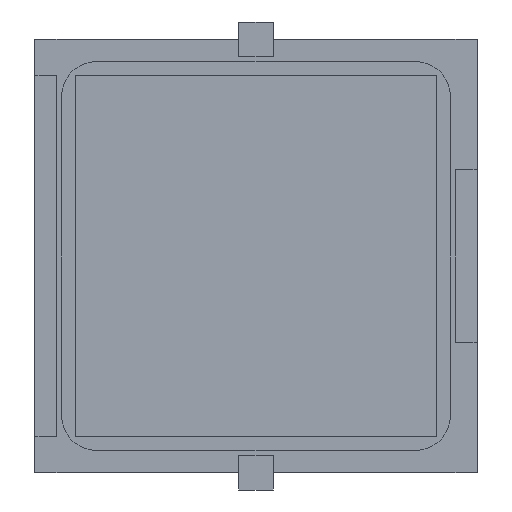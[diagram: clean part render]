
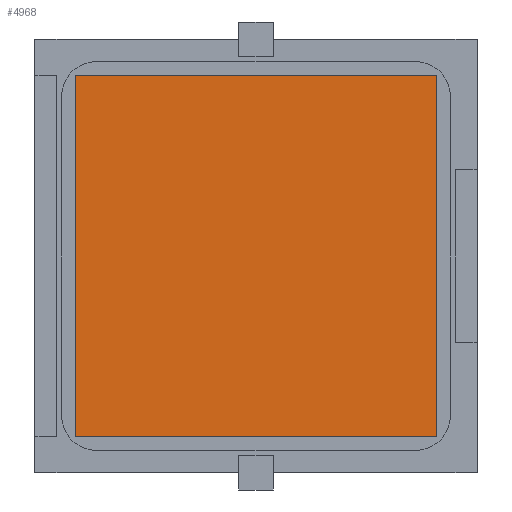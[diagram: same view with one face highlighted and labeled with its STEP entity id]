
A CAD part, front view. The second image highlights one B-rep face of the part: STEP entity #4968.
In plain terms, the highlighted planar face has unit normal (0, -1, 0).
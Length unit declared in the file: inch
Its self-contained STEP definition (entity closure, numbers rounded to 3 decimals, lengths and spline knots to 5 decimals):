
#57 = DIRECTION ( 'NONE',  ( -1., 0., 0. ) ) ;
#266 = VECTOR ( 'NONE', #4302, 39.37008 ) ;
#336 = VECTOR ( 'NONE', #1184, 39.37008 ) ;
#367 = EDGE_CURVE ( 'NONE', #679, #6004, #4339, .T. ) ;
#486 = CARTESIAN_POINT ( 'NONE',  ( -0.41339, -0.005, 0.41339 ) ) ;
#679 = VERTEX_POINT ( 'NONE', #1409 ) ;
#1184 = DIRECTION ( 'NONE',  ( 1., 0., 0. ) ) ;
#1252 = CARTESIAN_POINT ( 'NONE',  ( 0.41339, -0.005, 0.41339 ) ) ;
#1381 = ORIENTED_EDGE ( 'NONE', *, *, #2560, .F. ) ;
#1409 = CARTESIAN_POINT ( 'NONE',  ( -0.41339, -0.005, -0.41339 ) ) ;
#1443 = CARTESIAN_POINT ( 'NONE',  ( -0.41339, -0.005, -0.41339 ) ) ;
#1586 = VERTEX_POINT ( 'NONE', #1252 ) ;
#1771 = LINE ( 'NONE', #5066, #336 ) ;
#2401 = LINE ( 'NONE', #2951, #4094 ) ;
#2560 = EDGE_CURVE ( 'NONE', #5368, #679, #2401, .T. ) ;
#2825 = EDGE_CURVE ( 'NONE', #6004, #1586, #1771, .T. ) ;
#2870 = DIRECTION ( 'NONE',  ( 0., 1., 0. ) ) ;
#2951 = CARTESIAN_POINT ( 'NONE',  ( -0.41339, -0.005, -0.41339 ) ) ;
#2955 = ORIENTED_EDGE ( 'NONE', *, *, #367, .F. ) ;
#3154 = PLANE ( 'NONE',  #5198 ) ;
#3374 = DIRECTION ( 'NONE',  ( 0., 0., -1. ) ) ;
#3445 = CARTESIAN_POINT ( 'NONE',  ( -0.41339, -0.005, 0.41339 ) ) ;
#3585 = EDGE_LOOP ( 'NONE', ( #2955, #1381, #5299, #5713 ) ) ;
#3841 = LINE ( 'NONE', #5747, #5957 ) ;
#4094 = VECTOR ( 'NONE', #57, 39.37008 ) ;
#4302 = DIRECTION ( 'NONE',  ( 0., 0., 1. ) ) ;
#4339 = LINE ( 'NONE', #1443, #266 ) ;
#4707 = EDGE_CURVE ( 'NONE', #1586, #5368, #3841, .T. ) ;
#4720 = FACE_OUTER_BOUND ( 'NONE', #3585, .T. ) ;
#4968 = ADVANCED_FACE ( 'NONE', ( #4720 ), #3154, .F. ) ;
#5066 = CARTESIAN_POINT ( 'NONE',  ( -0.41339, -0.005, 0.41339 ) ) ;
#5198 = AXIS2_PLACEMENT_3D ( 'NONE', #486, #2870, #6155 ) ;
#5299 = ORIENTED_EDGE ( 'NONE', *, *, #4707, .F. ) ;
#5368 = VERTEX_POINT ( 'NONE', #6103 ) ;
#5713 = ORIENTED_EDGE ( 'NONE', *, *, #2825, .F. ) ;
#5747 = CARTESIAN_POINT ( 'NONE',  ( 0.41339, -0.005, -0.41339 ) ) ;
#5957 = VECTOR ( 'NONE', #3374, 39.37008 ) ;
#6004 = VERTEX_POINT ( 'NONE', #3445 ) ;
#6103 = CARTESIAN_POINT ( 'NONE',  ( 0.41339, -0.005, -0.41339 ) ) ;
#6155 = DIRECTION ( 'NONE',  ( 0., 0., 1. ) ) ;
